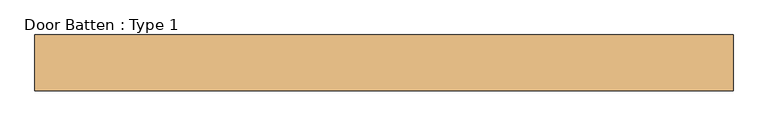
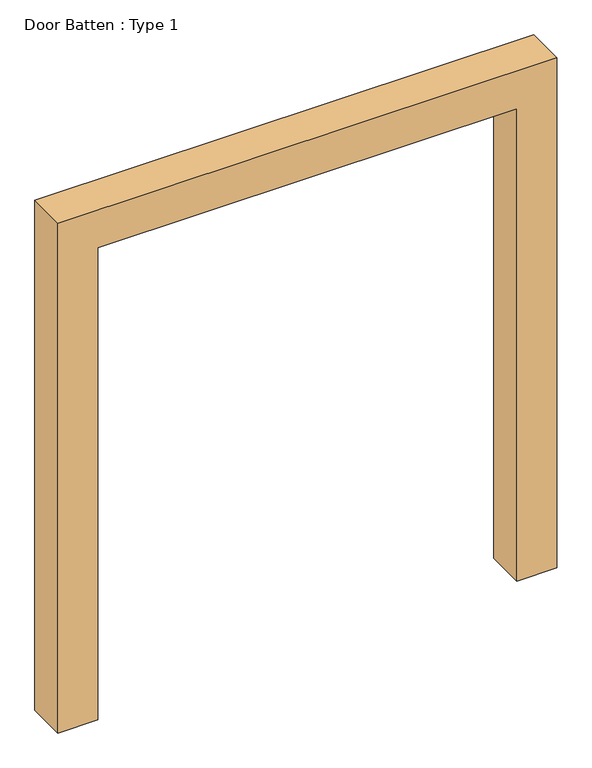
"""IFC4 building model written with IfcOpenShell, lengths in millimetres: door geometry, Door Batten : Type 1."""

from ifc_helpers import new_model, si_unit, frame, origin, place, context, project, spatial, polyline, outline, extrude, source, transform, mapped, element, save


def door_batten_type_1_96aa3be5(model_context):
    return source(origin(), model_context, "Body", "SweptSolid", [
        extrude(outline(polyline([(2708.8484214, -1123.8092038), (9.211445, -1123.8092038), (9.211445, -923.8092038), (2508.8484214, -923.8092038), (2508.8484214, 1173.8092038), (9.211445, 1173.8092038), (9.211445, 1373.8092038), (2708.8484214, 1373.8092038), (2708.8484214, -1123.8092038)])), frame((0.0, -310.0, 0.0), z_axis=(0.0, 1.0, 0.0), x_axis=(0.0, 0.0, 1.0)), (0.0, 0.0, 1.0), 200.0),
    ])


if __name__ == "__main__":
    model = new_model("IFC4")
    model_context = context("Model", 3, world=origin())
    ifc_project = project(units=[si_unit("LENGTHUNIT", "METRE", prefix="MILLI")], contexts=[model_context])
    site = spatial("IfcSite", under=ifc_project)
    building = spatial("IfcBuilding", under=site)
    placement = place(None, origin())
    door_batten_type_1_shape = door_batten_type_1_96aa3be5(model_context)
    element("IfcDoor", 1, ObjectType="Door Batten : Type 1", at=placement, inside=building, context=model_context, shape_type="MappedRepresentation", body=[
        mapped(door_batten_type_1_shape, transform((0.0, 0.0, 0.0), x_axis=(1.0, 0.0, 0.0), y_axis=(0.0, 1.0, 0.0), z_axis=(0.0, 0.0, 1.0))),
    ])
    save(model, "model.ifc")
